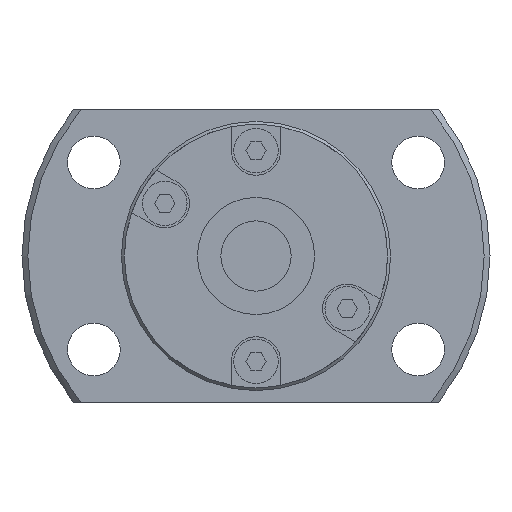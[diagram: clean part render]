
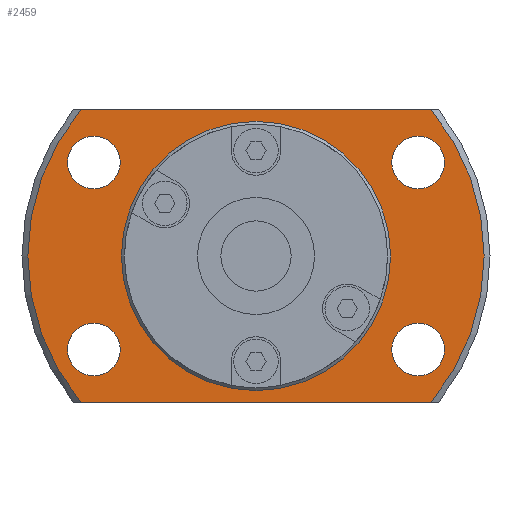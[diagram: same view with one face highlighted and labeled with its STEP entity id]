
A CAD part, left-side view. The second image highlights one B-rep face of the part: STEP entity #2459.
In plain terms, the highlighted planar face has unit normal (-1, 0, 0).
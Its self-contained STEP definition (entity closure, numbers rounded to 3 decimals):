
#136=LINE('',#3857,#362);
#137=LINE('',#3861,#363);
#362=VECTOR('',#3099,1000.);
#363=VECTOR('',#3102,1000.);
#684=ORIENTED_EDGE('',*,*,#1306,.F.);
#685=ORIENTED_EDGE('',*,*,#1307,.F.);
#686=ORIENTED_EDGE('',*,*,#1308,.F.);
#687=ORIENTED_EDGE('',*,*,#1309,.F.);
#688=ORIENTED_EDGE('',*,*,#1292,.F.);
#689=ORIENTED_EDGE('',*,*,#1310,.T.);
#690=ORIENTED_EDGE('',*,*,#1311,.F.);
#691=ORIENTED_EDGE('',*,*,#1312,.T.);
#692=ORIENTED_EDGE('',*,*,#1305,.T.);
#1292=EDGE_CURVE('',#1614,#1615,#1811,.T.);
#1305=EDGE_CURVE('',#1626,#1626,#1819,.T.);
#1306=EDGE_CURVE('',#1627,#1627,#1820,.F.);
#1307=EDGE_CURVE('',#1628,#1628,#1821,.F.);
#1308=EDGE_CURVE('',#1629,#1629,#1822,.F.);
#1309=EDGE_CURVE('',#1630,#1630,#1823,.F.);
#1310=EDGE_CURVE('',#1614,#1631,#136,.T.);
#1311=EDGE_CURVE('',#1632,#1631,#1824,.T.);
#1312=EDGE_CURVE('',#1632,#1615,#137,.T.);
#1614=VERTEX_POINT('',#3805);
#1615=VERTEX_POINT('',#3807);
#1626=VERTEX_POINT('',#3847);
#1627=VERTEX_POINT('',#3850);
#1628=VERTEX_POINT('',#3852);
#1629=VERTEX_POINT('',#3854);
#1630=VERTEX_POINT('',#3856);
#1631=VERTEX_POINT('',#3858);
#1632=VERTEX_POINT('',#3860);
#1811=CIRCLE('',#2675,19.5);
#1819=CIRCLE('',#2690,11.25);
#1820=CIRCLE('',#2692,2.25);
#1821=CIRCLE('',#2693,2.25);
#1822=CIRCLE('',#2694,2.25);
#1823=CIRCLE('',#2695,2.25);
#1824=CIRCLE('',#2696,19.5);
#1933=EDGE_LOOP('',(#684));
#1934=EDGE_LOOP('',(#685));
#1935=EDGE_LOOP('',(#686));
#1936=EDGE_LOOP('',(#687));
#1937=EDGE_LOOP('',(#688,#689,#690,#691));
#1938=EDGE_LOOP('',(#692));
#2155=FACE_BOUND('',#1933,.T.);
#2156=FACE_BOUND('',#1934,.T.);
#2157=FACE_BOUND('',#1935,.T.);
#2158=FACE_BOUND('',#1936,.T.);
#2159=FACE_BOUND('',#1937,.T.);
#2160=FACE_BOUND('',#1938,.T.);
#2331=PLANE('',#2691);
#2459=ADVANCED_FACE('',(#2155,#2156,#2157,#2158,#2159,#2160),#2331,.F.);
#2675=AXIS2_PLACEMENT_3D('',#3806,#3055,#3056);
#2690=AXIS2_PLACEMENT_3D('',#3846,#3087,#3088);
#2691=AXIS2_PLACEMENT_3D('',#3848,#3089,#3090);
#2692=AXIS2_PLACEMENT_3D('',#3849,#3091,#3092);
#2693=AXIS2_PLACEMENT_3D('',#3851,#3093,#3094);
#2694=AXIS2_PLACEMENT_3D('',#3853,#3095,#3096);
#2695=AXIS2_PLACEMENT_3D('',#3855,#3097,#3098);
#2696=AXIS2_PLACEMENT_3D('',#3859,#3100,#3101);
#3055=DIRECTION('',(1.,0.,0.));
#3056=DIRECTION('',(0.,0.,-1.));
#3087=DIRECTION('',(1.,0.,0.));
#3088=DIRECTION('',(0.,0.,-1.));
#3089=DIRECTION('',(1.,0.,0.));
#3090=DIRECTION('',(0.,0.,-1.));
#3091=DIRECTION('',(1.,0.,0.));
#3092=DIRECTION('',(0.,0.,-1.));
#3093=DIRECTION('',(1.,0.,0.));
#3094=DIRECTION('',(0.,0.,-1.));
#3095=DIRECTION('',(1.,0.,0.));
#3096=DIRECTION('',(0.,0.,-1.));
#3097=DIRECTION('',(1.,0.,0.));
#3098=DIRECTION('',(0.,0.,-1.));
#3099=DIRECTION('',(0.,-1.,0.));
#3100=DIRECTION('',(1.,0.,0.));
#3101=DIRECTION('',(0.,0.,-1.));
#3102=DIRECTION('',(0.,1.,0.));
#3805=CARTESIAN_POINT('',(22.,14.967,-12.5));
#3806=CARTESIAN_POINT('',(22.,0.,0.));
#3807=CARTESIAN_POINT('',(22.,14.967,12.5));
#3846=CARTESIAN_POINT('',(22.,0.,0.));
#3847=CARTESIAN_POINT('',(22.,0.,-11.25));
#3848=CARTESIAN_POINT('',(22.,11.25,0.));
#3849=CARTESIAN_POINT('',(22.,-13.856,-8.));
#3850=CARTESIAN_POINT('',(22.,-13.856,-10.25));
#3851=CARTESIAN_POINT('',(22.,-13.856,8.));
#3852=CARTESIAN_POINT('',(22.,-13.856,5.75));
#3853=CARTESIAN_POINT('',(22.,13.856,-8.));
#3854=CARTESIAN_POINT('',(22.,13.856,-10.25));
#3855=CARTESIAN_POINT('',(22.,13.856,8.));
#3856=CARTESIAN_POINT('',(22.,13.856,5.75));
#3857=CARTESIAN_POINT('',(22.,11.25,-12.5));
#3858=CARTESIAN_POINT('',(22.,-14.967,-12.5));
#3859=CARTESIAN_POINT('',(22.,0.,0.));
#3860=CARTESIAN_POINT('',(22.,-14.967,12.5));
#3861=CARTESIAN_POINT('',(22.,11.25,12.5));
